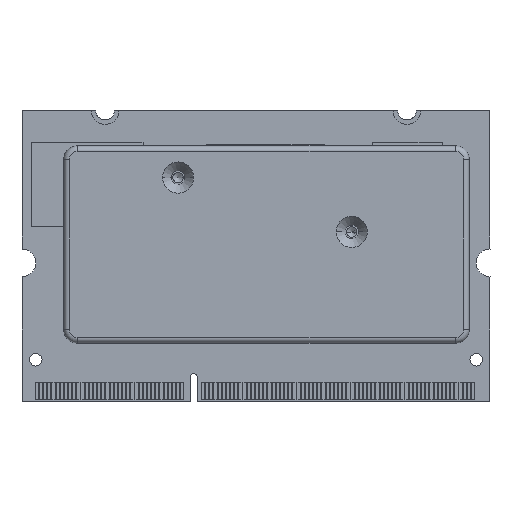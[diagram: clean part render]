
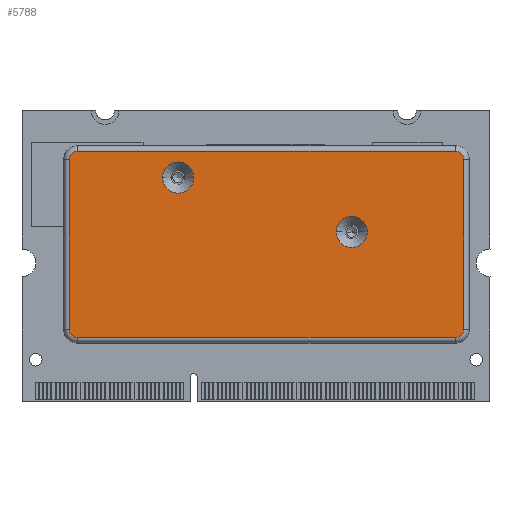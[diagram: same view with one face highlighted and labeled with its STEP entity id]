
A CAD part, top view. The second image highlights one B-rep face of the part: STEP entity #5788.
In plain terms, the highlighted planar face has unit normal (0, 0, 1).
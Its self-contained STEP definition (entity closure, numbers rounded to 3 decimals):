
#50 = DIRECTION ( 'NONE',  ( 1., 0., 0. ) ) ;
#91 = DIRECTION ( 'NONE',  ( 1., 0., 0. ) ) ;
#148 = VERTEX_POINT ( 'NONE', #2702 ) ;
#180 = ORIENTED_EDGE ( 'NONE', *, *, #8153, .T. ) ;
#588 = VERTEX_POINT ( 'NONE', #14427 ) ;
#783 = EDGE_CURVE ( 'NONE', #148, #10100, #18506, .T. ) ;
#1267 = DIRECTION ( 'NONE',  ( 0., 0., 1. ) ) ;
#1273 = DIRECTION ( 'NONE',  ( 1., 0., 0. ) ) ;
#1527 = AXIS2_PLACEMENT_3D ( 'NONE', #19182, #13356, #1273 ) ;
#1532 = CARTESIAN_POINT ( 'NONE',  ( 13.825, 39.662, 0. ) ) ;
#2083 = AXIS2_PLACEMENT_3D ( 'NONE', #3274, #23226, #17188 ) ;
#2556 = CARTESIAN_POINT ( 'NONE',  ( -11.257, 47.523, 0. ) ) ;
#2702 = CARTESIAN_POINT ( 'NONE',  ( 16.075, 39.662, 0. ) ) ;
#2815 = CARTESIAN_POINT ( 'NONE',  ( -9.007, 47.523, 0. ) ) ;
#2956 = ORIENTED_EDGE ( 'NONE', *, *, #13134, .T. ) ;
#3257 = CARTESIAN_POINT ( 'NONE',  ( 30., 50.1, 0. ) ) ;
#3274 = CARTESIAN_POINT ( 'NONE',  ( 28.8, 25.6, 0. ) ) ;
#3374 = EDGE_CURVE ( 'NONE', #588, #17417, #23482, .T. ) ;
#3526 = EDGE_CURVE ( 'NONE', #14747, #6146, #7313, .T. ) ;
#3592 = DIRECTION ( 'NONE',  ( 0., 0., 1. ) ) ;
#3913 = VERTEX_POINT ( 'NONE', #11385 ) ;
#4091 = CARTESIAN_POINT ( 'NONE',  ( 30., 50.1, 0. ) ) ;
#4291 = EDGE_LOOP ( 'NONE', ( #22490, #10112 ) ) ;
#4750 = VECTOR ( 'NONE', #11344, 1000. ) ;
#4858 = EDGE_CURVE ( 'NONE', #17377, #8525, #15520, .T. ) ;
#5170 = AXIS2_PLACEMENT_3D ( 'NONE', #16404, #24561, #18256 ) ;
#5305 = CARTESIAN_POINT ( 'NONE',  ( -25.8, 24.4, 0. ) ) ;
#5448 = VERTEX_POINT ( 'NONE', #20711 ) ;
#5527 = AXIS2_PLACEMENT_3D ( 'NONE', #2556, #21141, #9068 ) ;
#5788 = ADVANCED_FACE ( 'NONE', ( #25217, #21201, #15078 ), #12963, .T. ) ;
#5964 = CIRCLE ( 'NONE', #5527, 2.25 ) ;
#6125 = CARTESIAN_POINT ( 'NONE',  ( -27., 25.6, 0. ) ) ;
#6146 = VERTEX_POINT ( 'NONE', #5305 ) ;
#7163 = DIRECTION ( 'NONE',  ( 1., 0., 0. ) ) ;
#7313 = CIRCLE ( 'NONE', #25597, 1.2 ) ;
#7641 = DIRECTION ( 'NONE',  ( 1., 0., 0. ) ) ;
#7650 = EDGE_CURVE ( 'NONE', #8525, #17377, #5964, .T. ) ;
#8009 = ORIENTED_EDGE ( 'NONE', *, *, #8193, .T. ) ;
#8153 = EDGE_CURVE ( 'NONE', #9230, #14747, #14176, .T. ) ;
#8193 = EDGE_CURVE ( 'NONE', #6146, #16822, #10187, .T. ) ;
#8525 = VERTEX_POINT ( 'NONE', #2815 ) ;
#8869 = ORIENTED_EDGE ( 'NONE', *, *, #3374, .T. ) ;
#8931 = AXIS2_PLACEMENT_3D ( 'NONE', #11128, #25389, #7163 ) ;
#9068 = DIRECTION ( 'NONE',  ( 1., 0., 0. ) ) ;
#9230 = VERTEX_POINT ( 'NONE', #9650 ) ;
#9549 = CARTESIAN_POINT ( 'NONE',  ( -13.507, 47.523, 0. ) ) ;
#9650 = CARTESIAN_POINT ( 'NONE',  ( -27., 50.1, 0. ) ) ;
#9897 = DIRECTION ( 'NONE',  ( 0., 0., 1. ) ) ;
#10100 = VERTEX_POINT ( 'NONE', #23889 ) ;
#10112 = ORIENTED_EDGE ( 'NONE', *, *, #24363, .F. ) ;
#10187 = LINE ( 'NONE', #11929, #16981 ) ;
#10407 = ORIENTED_EDGE ( 'NONE', *, *, #4858, .F. ) ;
#11128 = CARTESIAN_POINT ( 'NONE',  ( 28.8, 50.1, 0. ) ) ;
#11344 = DIRECTION ( 'NONE',  ( 0., 1., 0. ) ) ;
#11385 = CARTESIAN_POINT ( 'NONE',  ( 28.8, 51.3, 0. ) ) ;
#11929 = CARTESIAN_POINT ( 'NONE',  ( 28.8, 24.4, 0. ) ) ;
#12169 = ORIENTED_EDGE ( 'NONE', *, *, #7650, .F. ) ;
#12234 = EDGE_LOOP ( 'NONE', ( #8009, #22846, #8869, #2956, #16341, #19564, #180, #25211 ) ) ;
#12308 = CARTESIAN_POINT ( 'NONE',  ( -11.257, 47.523, 0. ) ) ;
#12318 = DIRECTION ( 'NONE',  ( 0., -1., 0. ) ) ;
#12570 = EDGE_CURVE ( 'NONE', #16822, #588, #15641, .T. ) ;
#12963 = PLANE ( 'NONE',  #1527 ) ;
#13134 = EDGE_CURVE ( 'NONE', #17417, #3913, #17384, .T. ) ;
#13356 = DIRECTION ( 'NONE',  ( 0., 0., 1. ) ) ;
#13926 = CARTESIAN_POINT ( 'NONE',  ( 0., 51.3, 0. ) ) ;
#14176 = LINE ( 'NONE', #18130, #24265 ) ;
#14427 = CARTESIAN_POINT ( 'NONE',  ( 30., 25.6, 0. ) ) ;
#14747 = VERTEX_POINT ( 'NONE', #6125 ) ;
#15078 = FACE_BOUND ( 'NONE', #19896, .T. ) ;
#15520 = CIRCLE ( 'NONE', #24449, 2.25 ) ;
#15641 = CIRCLE ( 'NONE', #2083, 1.2 ) ;
#16325 = EDGE_CURVE ( 'NONE', #3913, #5448, #24057, .T. ) ;
#16341 = ORIENTED_EDGE ( 'NONE', *, *, #16325, .T. ) ;
#16404 = CARTESIAN_POINT ( 'NONE',  ( -25.8, 50.1, 0. ) ) ;
#16530 = DIRECTION ( 'NONE',  ( 1., 0., 0. ) ) ;
#16822 = VERTEX_POINT ( 'NONE', #20873 ) ;
#16981 = VECTOR ( 'NONE', #91, 1000. ) ;
#16985 = AXIS2_PLACEMENT_3D ( 'NONE', #21997, #9897, #50 ) ;
#17188 = DIRECTION ( 'NONE',  ( 1., 0., 0. ) ) ;
#17377 = VERTEX_POINT ( 'NONE', #9549 ) ;
#17384 = CIRCLE ( 'NONE', #8931, 1.2 ) ;
#17417 = VERTEX_POINT ( 'NONE', #4091 ) ;
#17516 = DIRECTION ( 'NONE',  ( 1., 0., 0. ) ) ;
#17609 = VECTOR ( 'NONE', #22066, 1000. ) ;
#18130 = CARTESIAN_POINT ( 'NONE',  ( -27., 25.6, 0. ) ) ;
#18256 = DIRECTION ( 'NONE',  ( 1., 0., 0. ) ) ;
#18506 = CIRCLE ( 'NONE', #19381, 2.25 ) ;
#19118 = CIRCLE ( 'NONE', #5170, 1.2 ) ;
#19182 = CARTESIAN_POINT ( 'NONE',  ( 0., 0., 0. ) ) ;
#19381 = AXIS2_PLACEMENT_3D ( 'NONE', #1532, #1267, #7641 ) ;
#19564 = ORIENTED_EDGE ( 'NONE', *, *, #25378, .T. ) ;
#19896 = EDGE_LOOP ( 'NONE', ( #12169, #10407 ) ) ;
#20711 = CARTESIAN_POINT ( 'NONE',  ( -25.8, 51.3, 0. ) ) ;
#20873 = CARTESIAN_POINT ( 'NONE',  ( 28.8, 24.4, 0. ) ) ;
#21141 = DIRECTION ( 'NONE',  ( 0., 0., 1. ) ) ;
#21201 = FACE_BOUND ( 'NONE', #4291, .T. ) ;
#21997 = CARTESIAN_POINT ( 'NONE',  ( 13.825, 39.662, 0. ) ) ;
#22066 = DIRECTION ( 'NONE',  ( -1., 0., 0. ) ) ;
#22490 = ORIENTED_EDGE ( 'NONE', *, *, #783, .F. ) ;
#22846 = ORIENTED_EDGE ( 'NONE', *, *, #12570, .T. ) ;
#23226 = DIRECTION ( 'NONE',  ( 0., 0., 1. ) ) ;
#23482 = LINE ( 'NONE', #3257, #4750 ) ;
#23889 = CARTESIAN_POINT ( 'NONE',  ( 11.575, 39.662, 0. ) ) ;
#24057 = LINE ( 'NONE', #13926, #17609 ) ;
#24187 = CARTESIAN_POINT ( 'NONE',  ( -25.8, 25.6, 0. ) ) ;
#24265 = VECTOR ( 'NONE', #12318, 1000. ) ;
#24363 = EDGE_CURVE ( 'NONE', #10100, #148, #25976, .T. ) ;
#24449 = AXIS2_PLACEMENT_3D ( 'NONE', #12308, #24553, #16530 ) ;
#24553 = DIRECTION ( 'NONE',  ( 0., 0., 1. ) ) ;
#24561 = DIRECTION ( 'NONE',  ( 0., 0., 1. ) ) ;
#25211 = ORIENTED_EDGE ( 'NONE', *, *, #3526, .T. ) ;
#25217 = FACE_OUTER_BOUND ( 'NONE', #12234, .T. ) ;
#25378 = EDGE_CURVE ( 'NONE', #5448, #9230, #19118, .T. ) ;
#25389 = DIRECTION ( 'NONE',  ( 0., 0., 1. ) ) ;
#25597 = AXIS2_PLACEMENT_3D ( 'NONE', #24187, #3592, #17516 ) ;
#25976 = CIRCLE ( 'NONE', #16985, 2.25 ) ;
